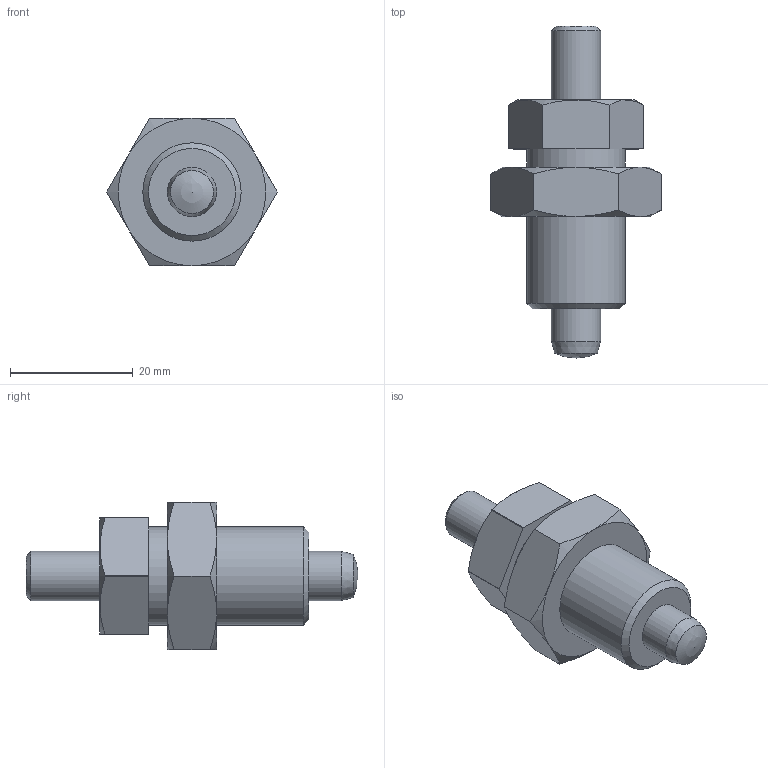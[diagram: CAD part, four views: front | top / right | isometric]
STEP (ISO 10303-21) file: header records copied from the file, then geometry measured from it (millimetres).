
FILE_DESCRIPTION( ( 'STEP AP203' ), '1' );
FILE_NAME( 'C:/Temp/Ganter_Step_05_03_2020/data/3_1/gn617_n/gn617n_gk/Stainless Steel Indexing plunger GN 617-8-GK-NI (deactivated-3).stp', '2020-03-12T08:43:15', ( 'License CC BY-ND 4.0' ), ( 'CADENAS' ), ' ', 'PARTsolutions', ' ' );
FILE_SCHEMA( ( 'CONFIG_CONTROL_DESIGN' ) );
Length unit declared in the file: millimetre
Products named in the file (4): Stainless Steel Indexing plunger GN 617-8-GK-NI (deactivated-3); _STAINLESS STEEL - Indexing plunger GN 617-8-GK-NI (3)-2; _STAINLESS STEEL - Indexing plunger GN 617-8-GK-NI (0)-1; _STAINLESS STEEL - Indexing plunger GN 617-8-GK-NI-3
Assembly tree (3 placements, depth 2):
  Stainless Steel Indexing plunger GN 617-8-GK-NI (deactivated-3)
    _STAINLESS STEEL - Indexing plunger GN 617-8-GK-NI (3)-2
    _STAINLESS STEEL - Indexing plunger GN 617-8-GK-NI (0)-1
    _STAINLESS STEEL - Indexing plunger GN 617-8-GK-NI-3
Bounding box: 27.71 x 54 x 24 mm (x, y, z)
Volume: 10464.1 mm3; surface area: 6834.5 mm2
Topology: 3 solids, 3 shells, 55 faces, 117 edges, 72 vertices
Faces by surface type: plane 22, cone 18, cylinder 14, sphere 1
Full cylindrical faces by diameter (mm): 8 x4, 14 x2, 14.376 x1, 16 x1
Entity records: 1679 total; most frequent: CARTESIAN_POINT 440, DIRECTION 234, ORIENTED_EDGE 200, AXIS2_PLACEMENT_3D 105, EDGE_CURVE 100, EDGE_LOOP 78, VERTEX_POINT 71, FACE_OUTER_BOUND 63
